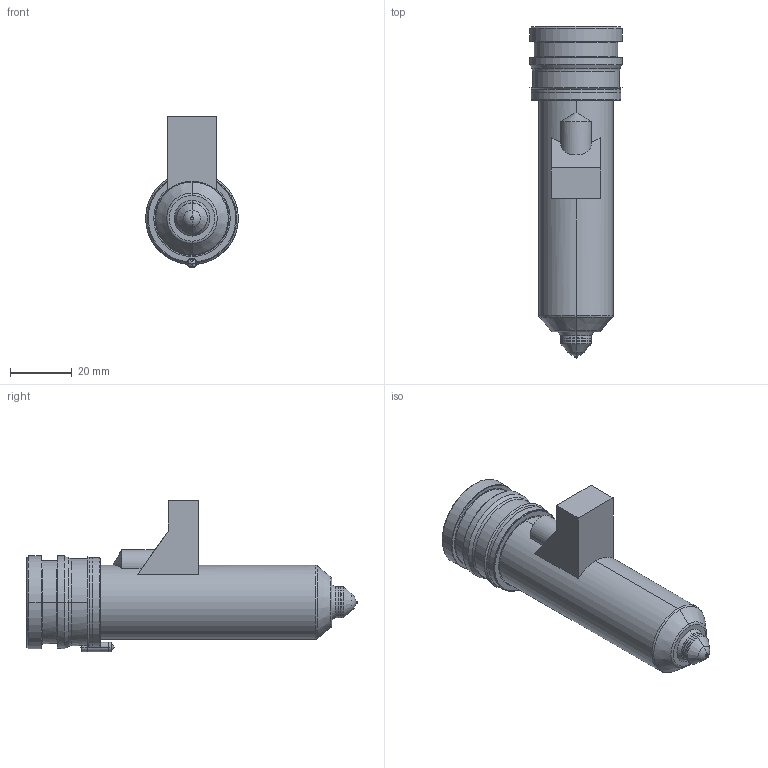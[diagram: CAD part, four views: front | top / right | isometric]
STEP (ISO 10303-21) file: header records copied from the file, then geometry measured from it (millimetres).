
FILE_DESCRIPTION((''),'2;1');
FILE_NAME('MPN-10-29-VX10-086-M','2026-02-05T12:56:39',('UPTIO'),('Thermoplay S.p.A.'),'CREO PARAMETRIC BY PTC INC, 2023494','CREO PARAMETRIC BY PTC INC, 2023494','');
FILE_SCHEMA(('CONFIG_CONTROL_DESIGN','SHAPE_APPEARANCE_LAYERS_GROUPS'));
Length unit declared in the file: millimetre
Products named in the file (1): MPN-10-29-VX10-086-M
Bounding box: 30 x 107.5 x 49 mm (x, y, z)
Volume: 34046.6 mm3; surface area: 35101.9 mm2
Topology: 3 solids, 5 shells, 547 faces, 1387 edges, 846 vertices
Faces by surface type: cylinder 179, plane 147, torus 71, bspline 70, cone 68, sphere 8, extrusion 4
Entity records: 27339 total; most frequent: CARTESIAN_POINT 11374, ORIENTED_EDGE 2760, DIRECTION 2638, EDGE_CURVE 1380, AXIS2_PLACEMENT_3D 1050, VERTEX_POINT 846, EDGE_LOOP 576, CIRCLE 576
